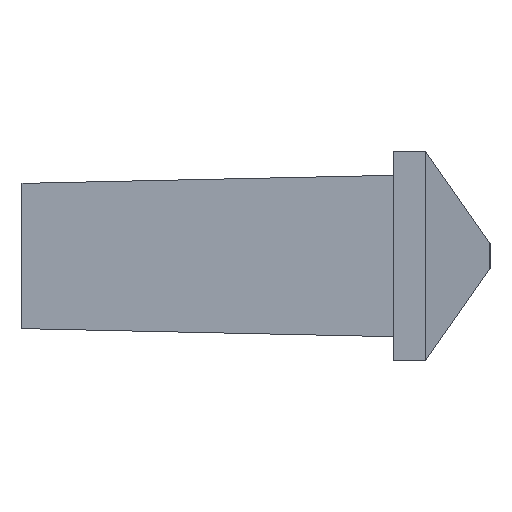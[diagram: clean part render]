
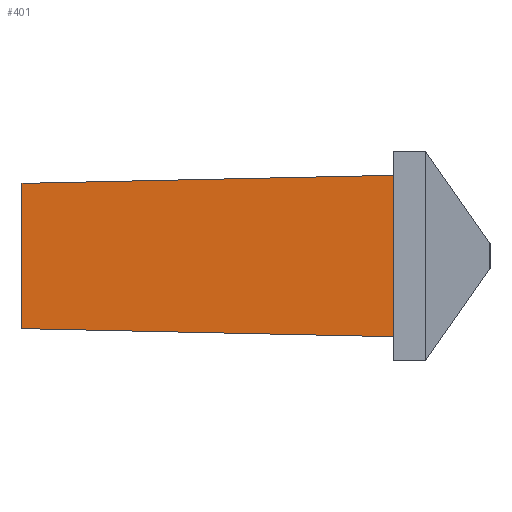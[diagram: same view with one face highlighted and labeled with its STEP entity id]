
A CAD part, left-side view. The second image highlights one B-rep face of the part: STEP entity #401.
In plain terms, the highlighted planar face has unit normal (-1, 0, 0).
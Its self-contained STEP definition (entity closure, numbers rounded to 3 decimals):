
#229 = VERTEX_POINT( '', #545 );
#283 = EDGE_CURVE( '', #229, #463, #603, .T. );
#285 = EDGE_CURVE( '', #463, #341, #605, .T. );
#341 = VERTEX_POINT( '', #666 );
#357 = EDGE_CURVE( '', #341, #405, #684, .T. );
#401 = ADVANCED_FACE( '', ( #734 ), #735, .F. );
#405 = VERTEX_POINT( '', #740 );
#457 = EDGE_CURVE( '', #405, #229, #803, .T. );
#463 = VERTEX_POINT( '', #809 );
#545 = CARTESIAN_POINT( '', ( -5., 0., 4.5 ) );
#603 = LINE( '', #1001, #1002 );
#605 = LINE( '', #1005, #1006 );
#666 = CARTESIAN_POINT( '', ( -5., -23., -5. ) );
#684 = LINE( '', #1114, #1115 );
#734 = FACE_OUTER_BOUND( '', #1177, .T. );
#735 = PLANE( '', #1178 );
#740 = CARTESIAN_POINT( '', ( -5., 0., -4.5 ) );
#803 = LINE( '', #1265, #1266 );
#809 = CARTESIAN_POINT( '', ( -5., -23., 5. ) );
#1001 = CARTESIAN_POINT( '', ( -5., 0., 4.5 ) );
#1002 = VECTOR( '', #1397, 1. );
#1005 = CARTESIAN_POINT( '', ( -5., -23., -3.25 ) );
#1006 = VECTOR( '', #1398, 1. );
#1114 = CARTESIAN_POINT( '', ( -5., -23., -5. ) );
#1115 = VECTOR( '', #1468, 1. );
#1177 = EDGE_LOOP( '', ( #1528, #1529, #1530, #1531 ) );
#1178 = AXIS2_PLACEMENT_3D( '', #1532, #1533, #1534 );
#1265 = CARTESIAN_POINT( '', ( -5., 0., -4.5 ) );
#1266 = VECTOR( '', #1630, 1. );
#1397 = DIRECTION( '', ( 0., -1., 0.022 ) );
#1398 = DIRECTION( '', ( 0., 0., -1. ) );
#1468 = DIRECTION( '', ( 0., 1., 0.022 ) );
#1528 = ORIENTED_EDGE( '', *, *, #357, .F. );
#1529 = ORIENTED_EDGE( '', *, *, #285, .F. );
#1530 = ORIENTED_EDGE( '', *, *, #283, .F. );
#1531 = ORIENTED_EDGE( '', *, *, #457, .F. );
#1532 = CARTESIAN_POINT( '', ( -5., 0., 0. ) );
#1533 = DIRECTION( '', ( 1., 0., 0. ) );
#1534 = DIRECTION( '', ( 0., 0., -1. ) );
#1630 = DIRECTION( '', ( 0., 0., 1. ) );
